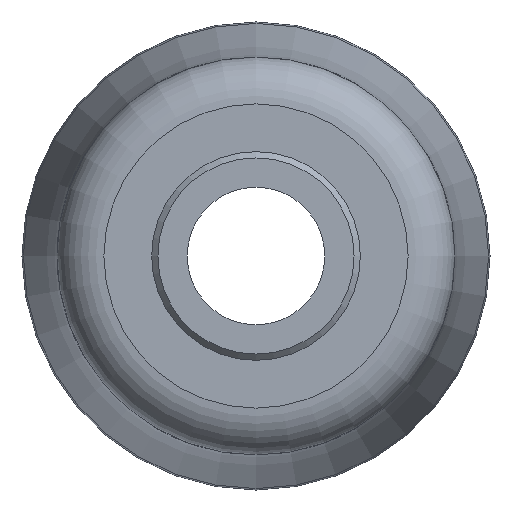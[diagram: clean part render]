
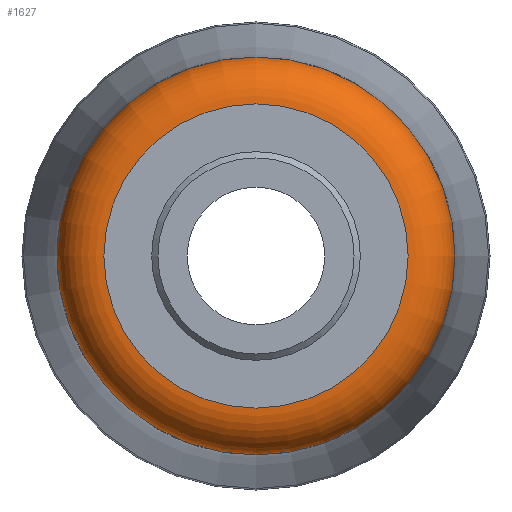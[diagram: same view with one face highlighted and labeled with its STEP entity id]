
A CAD part, left-side view. The second image highlights one B-rep face of the part: STEP entity #1627.
In plain terms, the highlighted toroidal (fillet/blend) face has major radius 15.275 mm and minor radius 4.7 mm.
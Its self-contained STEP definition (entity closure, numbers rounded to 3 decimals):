
#15=TOROIDAL_SURFACE('',#1778,15.275,4.7);
#343=FACE_BOUND('',#490,.T.);
#382=FACE_OUTER_BOUND('',#489,.T.);
#489=EDGE_LOOP('',(#1156));
#490=EDGE_LOOP('',(#1157));
#621=CIRCLE('',#1779,15.275);
#622=CIRCLE('',#1780,19.975);
#723=VERTEX_POINT('',#2795);
#724=VERTEX_POINT('',#2797);
#889=EDGE_CURVE('',#723,#723,#621,.T.);
#890=EDGE_CURVE('',#724,#724,#622,.T.);
#1156=ORIENTED_EDGE('',*,*,#889,.T.);
#1157=ORIENTED_EDGE('',*,*,#890,.T.);
#1627=ADVANCED_FACE('',(#382,#343),#15,.T.);
#1778=AXIS2_PLACEMENT_3D('',#2794,#2059,#2060);
#1779=AXIS2_PLACEMENT_3D('',#2796,#2061,#2062);
#1780=AXIS2_PLACEMENT_3D('',#2798,#2063,#2064);
#2059=DIRECTION('center_axis',(1.,0.,0.));
#2060=DIRECTION('ref_axis',(0.,0.,-1.));
#2061=DIRECTION('center_axis',(1.,0.,0.));
#2062=DIRECTION('ref_axis',(0.,-1.,0.));
#2063=DIRECTION('center_axis',(-1.,0.,0.));
#2064=DIRECTION('ref_axis',(0.,-1.,0.));
#2794=CARTESIAN_POINT('Origin',(17.7,0.,0.));
#2795=CARTESIAN_POINT('',(13.,15.275,0.));
#2796=CARTESIAN_POINT('Origin',(13.,0.,0.));
#2797=CARTESIAN_POINT('',(17.7,19.975,0.));
#2798=CARTESIAN_POINT('Origin',(17.7,0.,0.));
